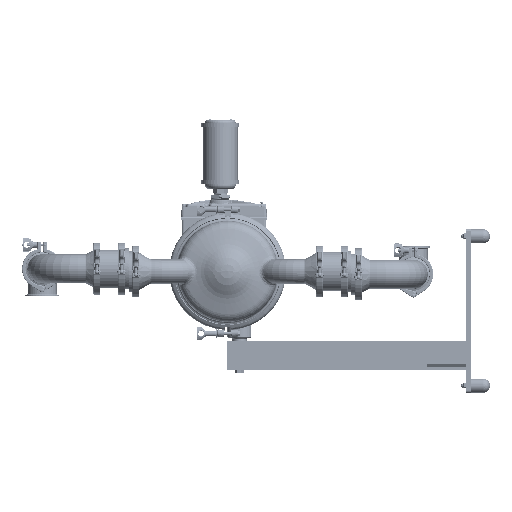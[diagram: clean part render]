
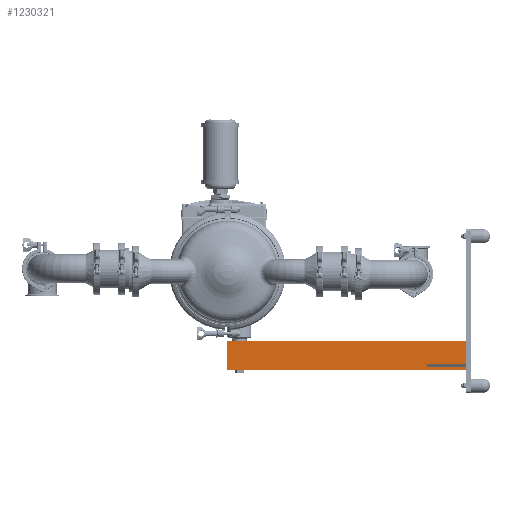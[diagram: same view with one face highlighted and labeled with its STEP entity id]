
A CAD part, left-side view. The second image highlights one B-rep face of the part: STEP entity #1230321.
In plain terms, the highlighted planar face has unit normal (-1, 0, 0).
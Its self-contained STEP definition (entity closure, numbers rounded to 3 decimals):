
#1221374=DIRECTION('',(0.,0.,-1.));
#1221375=VECTOR('',#1221374,2.39);
#1221376=CARTESIAN_POINT('',(-1.,-24.72,-7.236));
#1221377=LINE('',#1221376,#1221375);
#1221406=DIRECTION('',(0.,0.,-1.));
#1221407=VECTOR('',#1221406,0.36);
#1221408=CARTESIAN_POINT('',(-1.,-24.72,-9.876));
#1221409=LINE('',#1221408,#1221407);
#1221942=DIRECTION('',(0.,1.,0.));
#1221943=VECTOR('',#1221942,24.813);
#1221944=CARTESIAN_POINT('',(-1.,-24.72,-10.236));
#1221945=LINE('',#1221944,#1221943);
#1221946=DIRECTION('',(0.,1.,0.));
#1221947=VECTOR('',#1221946,4.);
#1221948=CARTESIAN_POINT('',(-1.,-24.72,-9.626));
#1221949=LINE('',#1221948,#1221947);
#1221950=DIRECTION('',(0.,0.,-1.));
#1221951=VECTOR('',#1221950,0.25);
#1221952=CARTESIAN_POINT('',(-1.,-20.72,-9.626));
#1221953=LINE('',#1221952,#1221951);
#1221954=DIRECTION('',(0.,1.,0.));
#1221955=VECTOR('',#1221954,4.);
#1221956=CARTESIAN_POINT('',(-1.,-24.72,-9.876));
#1221957=LINE('',#1221956,#1221955);
#1222576=DIRECTION('',(0.,1.,0.));
#1222577=VECTOR('',#1222576,24.813);
#1222578=CARTESIAN_POINT('',(-1.,-24.72,-7.236));
#1222579=LINE('',#1222578,#1222577);
#1223190=DIRECTION('',(0.,0.,1.));
#1223191=VECTOR('',#1223190,3.);
#1223192=CARTESIAN_POINT('',(-1.,0.093,-10.236));
#1223193=LINE('',#1223192,#1223191);
#1229131=CARTESIAN_POINT('',(-1.,-24.72,-10.236));
#1229133=VERTEX_POINT('',#1229131);
#1229136=CARTESIAN_POINT('',(-1.,-24.72,-7.236));
#1229138=VERTEX_POINT('',#1229136);
#1229159=CARTESIAN_POINT('',(-1.,-24.72,-9.626));
#1229161=VERTEX_POINT('',#1229159);
#1229163=CARTESIAN_POINT('',(-1.,-24.72,-9.876));
#1229165=VERTEX_POINT('',#1229163);
#1229167=CARTESIAN_POINT('',(-1.,-20.72,-9.626));
#1229168=VERTEX_POINT('',#1229167);
#1229169=CARTESIAN_POINT('',(-1.,-20.72,-9.876));
#1229170=VERTEX_POINT('',#1229169);
#1229172=CARTESIAN_POINT('',(-1.,0.093,-10.236));
#1229174=VERTEX_POINT('',#1229172);
#1229175=CARTESIAN_POINT('',(-1.,0.093,-7.236));
#1229176=VERTEX_POINT('',#1229175);
#1230303=CARTESIAN_POINT('',(-1.,-0.157,-7.236));
#1230304=DIRECTION('',(-1.,0.,0.));
#1230305=DIRECTION('',(0.,0.,-1.));
#1230306=AXIS2_PLACEMENT_3D('',#1230303,#1230304,#1230305);
#1230307=PLANE('',#1230306);
#1230309=ORIENTED_EDGE('',*,*,#1230308,.T.);
#1230311=ORIENTED_EDGE('',*,*,#1230310,.T.);
#1230313=ORIENTED_EDGE('',*,*,#1230312,.F.);
#1230314=ORIENTED_EDGE('',*,*,#1229580,.T.);
#1230315=ORIENTED_EDGE('',*,*,#1230272,.T.);
#1230316=ORIENTED_EDGE('',*,*,#1230285,.T.);
#1230317=ORIENTED_EDGE('',*,*,#1230297,.F.);
#1230318=ORIENTED_EDGE('',*,*,#1229596,.T.);
#1230319=EDGE_LOOP('',(#1230309,#1230311,#1230313,#1230314,#1230315,#1230316,
#1230317,#1230318));
#1230320=FACE_OUTER_BOUND('',#1230319,.F.);
#1230321=ADVANCED_FACE('',(#1230320),#1230307,.T.);
#1229580=EDGE_CURVE('',#1229138,#1229161,#1221377,.T.);
#1229596=EDGE_CURVE('',#1229165,#1229133,#1221409,.T.);
#1230272=EDGE_CURVE('',#1229161,#1229168,#1221949,.T.);
#1230285=EDGE_CURVE('',#1229168,#1229170,#1221953,.T.);
#1230297=EDGE_CURVE('',#1229165,#1229170,#1221957,.T.);
#1230308=EDGE_CURVE('',#1229133,#1229174,#1221945,.T.);
#1230310=EDGE_CURVE('',#1229174,#1229176,#1223193,.T.);
#1230312=EDGE_CURVE('',#1229138,#1229176,#1222579,.T.);
